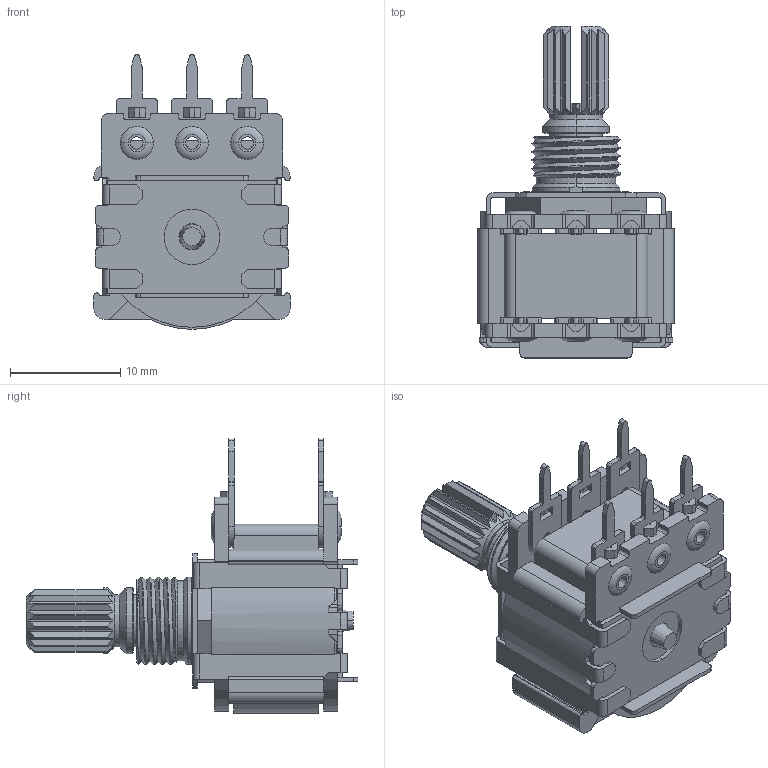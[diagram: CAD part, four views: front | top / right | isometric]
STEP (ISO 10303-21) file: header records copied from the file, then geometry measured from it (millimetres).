
FILE_DESCRIPTION (( 'STEP AP214' ), '1' );
FILE_NAME ('288XAA5K162A2.STEP', '2019-05-28T02:30:33', ( '' ), ( '' ), 'SwSTEP 2.0', 'SolidWorks 2019', '' );
FILE_SCHEMA (( 'AUTOMOTIVE_DESIGN' ));
Length unit declared in the file: millimetre
Products named in the file (12): 280-01-016-30-01(.093); 280-18-001-01-37(Roll over); 280D-C-2361; 280-95-002-00-00(for 011 base); 280-95-002-00-00(for 016 base); 280-33-015; 280S-DL-10972-EM-A; 280-08-009-07-01_MountingPlate2800090701; 280-07-001-01-53; 280-02-001-40-01_Two Sections280020014001; 288XAA5K162A2; 280-01-011-30-01(.162)
Assembly tree (17 placements, depth 3):
  288XAA5K162A2
    280-02-001-40-01_Two Sections280020014001
    280-95-002-00-00(for 011 base)
      280-01-011-30-01(.162)
      280-18-001-01-37(Roll over)  x3
    280-95-002-00-00(for 016 base)
      280-01-016-30-01(.093)
      280-18-001-01-37(Roll over)  x4
    280D-C-2361
    280-07-001-01-53
    280-08-009-07-01_MountingPlate2800090701
    280S-DL-10972-EM-A
    280-33-015
Bounding box: 17.78 x 30.07 x 24.89 mm (x, y, z)
Volume: 2562.1 mm3; surface area: 6195 mm2
Topology: 15 solids, 15 shells, 912 faces, 2514 edges, 1643 vertices
Faces by surface type: plane 558, cylinder 281, torus 36, cone 35, bspline 2
Entity records: 22662 total; most frequent: CARTESIAN_POINT 4977, ORIENTED_EDGE 3696, DIRECTION 3567, EDGE_CURVE 1848, AXIS2_PLACEMENT_3D 1229, VERTEX_POINT 1211, VECTOR 1109, LINE 1109
